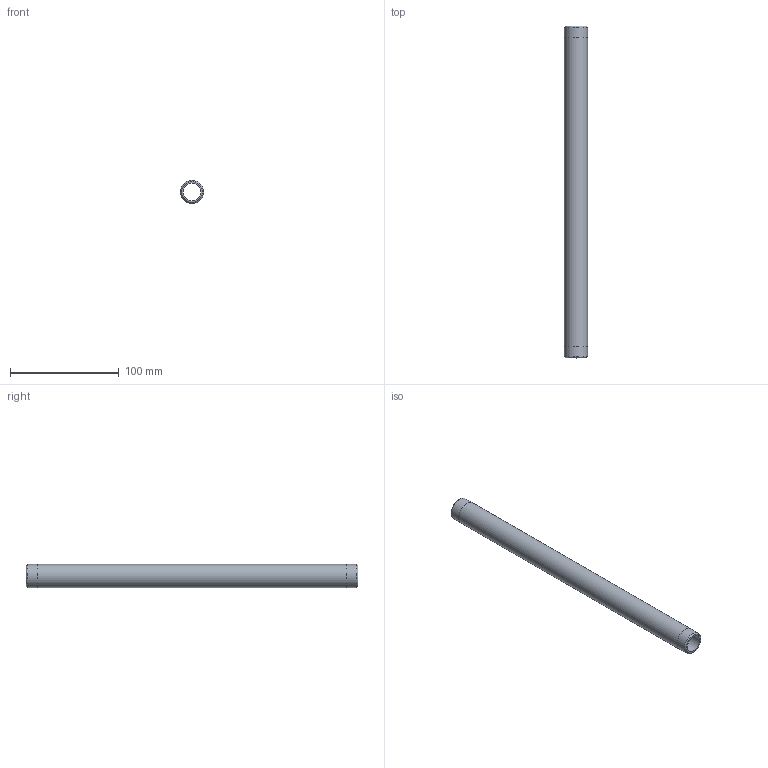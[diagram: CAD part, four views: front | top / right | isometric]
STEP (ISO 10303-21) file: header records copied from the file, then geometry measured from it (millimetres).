
FILE_DESCRIPTION(/* description */ (''),/* implementation_level */ '2;1');
FILE_NAME(/* name */ 'C:/Users/drich/Desktop/BPN12-12 v1.step',/* time_stamp */ '2020-01-03T14:34:50-06:00',/* author */ (''),/* organization */ (''),/* preprocessor_version */ 'ST-DEVELOPER v18',/* originating_system */ 'Autodesk Translation Framework v8.12.0.6',/* authorisation */ '');
FILE_SCHEMA (('AUTOMOTIVE_DESIGN { 1 0 10303 214 3 1 1 }'));
Length unit declared in the file: inch
Products named in the file (1): BPN12-12
Bounding box: 21.34 x 304.8 x 21.34 mm (x, y, z)
Volume: 49103.4 mm3; surface area: 35785.3 mm2
Topology: 1 solids, 1 shells, 10 faces, 24 edges, 18 vertices
Faces by surface type: cylinder 4, plane 4, cone 2
Full cylindrical faces by diameter (mm): 15.799 x1, 21.285 x2, 21.336 x1
Entity records: 360 total; most frequent: DIRECTION 64, CARTESIAN_POINT 53, ORIENTED_EDGE 48, AXIS2_PLACEMENT_3D 29, EDGE_CURVE 24, CIRCLE 18, VERTEX_POINT 18, EDGE_LOOP 14
